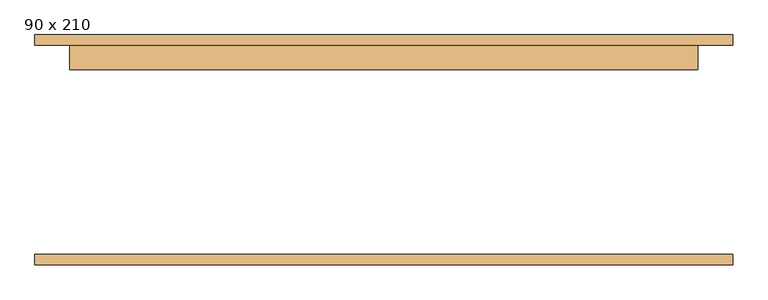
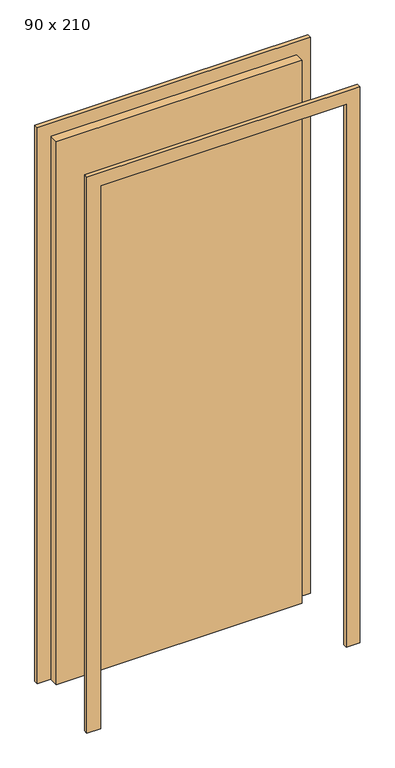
"""IFC4 building model written with IfcOpenShell, lengths in millimetres: door geometry, M_Descarga simples : 90 x 210."""

from ifc_helpers import new_model, si_unit, frame, origin, origin_with_axes, place, context, project, spatial, polyline, outline, extrude, source, transform, mapped, element, save


def door_90_x_210_7cab96d7(model_context):
    return source(origin(), model_context, "Body", "SweptSolid", [
        extrude(outline(polyline([(2150.0, -500.0), (0.0, -500.0), (0.0, -450.0), (2100.0, -450.0), (2100.0, 450.0), (0.0, 450.0), (0.0, 500.0), (2150.0, 500.0), (2150.0, -500.0)])), frame((0.0, 150.0, 0.0), z_axis=(0.0, 1.0, 0.0), x_axis=(0.0, 0.0, 1.0)), (0.0, 0.0, 1.0), 15.0),
        extrude(outline(polyline([(2150.0, 500.0), (2150.0, -500.0), (0.0, -500.0), (0.0, -450.0), (2100.0, -450.0), (2100.0, 450.0), (0.0, 450.0), (0.0, 500.0), (2150.0, 500.0)])), frame((0.0, -165.0, 0.0), z_axis=(0.0, 1.0, 0.0), x_axis=(0.0, 0.0, 1.0)), (0.0, 0.0, 1.0), 15.0),
        extrude(outline(polyline([(450.0, 115.0), (-450.0, 115.0), (-450.0, 150.0), (450.0, 150.0), (450.0, 115.0)])), origin_with_axes(), (0.0, 0.0, 1.0), 2100.0),
    ])


if __name__ == "__main__":
    model = new_model("IFC4")
    model_context = context("Model", 3, world=origin())
    ifc_project = project(units=[si_unit("LENGTHUNIT", "METRE", prefix="MILLI")], contexts=[model_context])
    site = spatial("IfcSite", under=ifc_project)
    building = spatial("IfcBuilding", under=site)
    placement = place(None, origin())
    door_90_x_210_shape = door_90_x_210_7cab96d7(model_context)
    element("IfcDoor", 1, ObjectType="M_Descarga simples : 90 x 210", at=placement, inside=building, context=model_context, shape_type="MappedRepresentation", body=[
        mapped(door_90_x_210_shape, transform((0.0, 0.0, 0.0), x_axis=(1.0, 0.0, 0.0), y_axis=(0.0, 1.0, 0.0), z_axis=(0.0, 0.0, 1.0))),
    ])
    save(model, "model.ifc")
